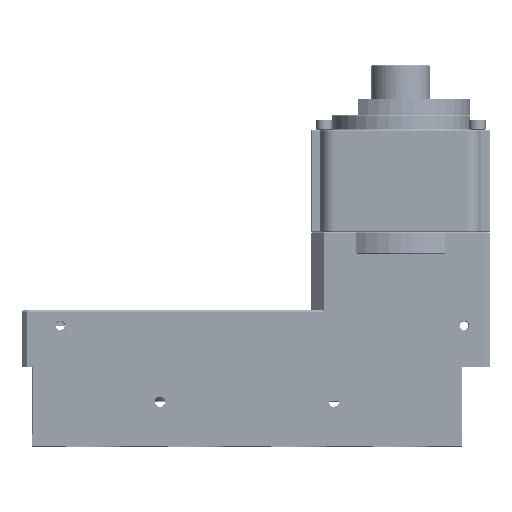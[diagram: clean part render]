
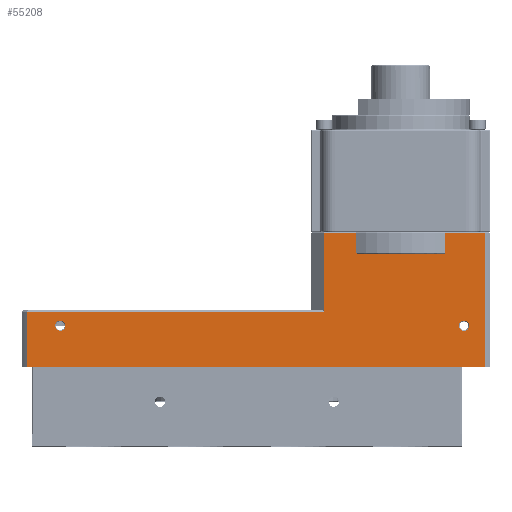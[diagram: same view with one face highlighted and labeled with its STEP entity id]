
A CAD part, top view. The second image highlights one B-rep face of the part: STEP entity #55208.
In plain terms, the highlighted planar face has unit normal (0, 0, 1).
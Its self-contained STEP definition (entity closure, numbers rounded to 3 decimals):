
#10678 = EDGE_LOOP ( 'NONE', ( #95734, #95729, #94895, #94901, #96027, #95332, #95572, #95432, #95699, #94697, #95570, #95328 ) ) ;
#35130 = EDGE_LOOP ( 'NONE', ( #94853, #94816 ) ) ;
#42909 = CARTESIAN_POINT ( 'NONE',  ( 255.283, 23.325, 11.51 ) ) ;
#45396 = DIRECTION ( 'NONE',  ( 0., 0., -1. ) ) ;
#45399 = DIRECTION ( 'NONE',  ( -1., 0., 0. ) ) ;
#45437 = PLANE ( 'NONE',  #165544 ) ;
#55208 = ADVANCED_FACE ( 'NONE', ( #164099, #164111, #164115 ), #45437, .F. ) ;
#55702 = B_SPLINE_CURVE_WITH_KNOTS ( 'NONE', 3,
 ( #152150, #152155, #152156, #152157 ),
 .UNSPECIFIED., .F., .F.,
 ( 4, 4 ),
 ( 0., 0.002 ),
 .UNSPECIFIED. ) ;
#55705 = B_SPLINE_CURVE_WITH_KNOTS ( 'NONE', 3,
 ( #152209, #152215, #152216, #152217 ),
 .UNSPECIFIED., .F., .F.,
 ( 4, 4 ),
 ( 0., 0.002 ),
 .UNSPECIFIED. ) ;
#60473 = CARTESIAN_POINT ( 'NONE',  ( 255.283, 83.075, 11.51 ) ) ;
#60999 = CARTESIAN_POINT ( 'NONE',  ( 255.283, -21.175, 11.51 ) ) ;
#61098 = CARTESIAN_POINT ( 'NONE',  ( 129.553, 83.075, 11.51 ) ) ;
#61161 = CARTESIAN_POINT ( 'NONE',  ( 129.553, 21.825, 11.51 ) ) ;
#61177 = CARTESIAN_POINT ( 'NONE',  ( 224.461, 67.575, 11.51 ) ) ;
#61347 = CARTESIAN_POINT ( 'NONE',  ( 235.258, 10.825, 11.51 ) ) ;
#61388 = CARTESIAN_POINT ( 'NONE',  ( -102.717, -21.175, 11.51 ) ) ;
#61414 = CARTESIAN_POINT ( 'NONE',  ( -102.717, 21.825, 11.51 ) ) ;
#61423 = CARTESIAN_POINT ( 'NONE',  ( 224.461, 83.075, 11.51 ) ) ;
#61432 = CARTESIAN_POINT ( 'NONE',  ( 154.645, 83.075, 11.51 ) ) ;
#61434 = CARTESIAN_POINT ( 'NONE',  ( 156.393, 66.575, 11.51 ) ) ;
#61616 = CARTESIAN_POINT ( 'NONE',  ( 154.645, 67.575, 11.51 ) ) ;
#61623 = CARTESIAN_POINT ( 'NONE',  ( -72.692, 10.825, 11.51 ) ) ;
#61698 = CARTESIAN_POINT ( 'NONE',  ( 222.712, 66.575, 11.51 ) ) ;
#61728 = CARTESIAN_POINT ( 'NONE',  ( -80.742, 10.825, 11.51 ) ) ;
#61938 = CARTESIAN_POINT ( 'NONE',  ( 243.308, 10.825, 11.51 ) ) ;
#63099 = EDGE_CURVE ( 'NONE', #106035, #104746, #146894, .T. ) ;
#63134 = EDGE_CURVE ( 'NONE', #104834, #103984, #147018, .T. ) ;
#63195 = EDGE_CURVE ( 'NONE', #104746, #106035, #147289, .T. ) ;
#63214 = EDGE_CURVE ( 'NONE', #103158, #103984, #147362, .T. ) ;
#63225 = EDGE_CURVE ( 'NONE', #104946, #105496, #147378, .T. ) ;
#63248 = EDGE_CURVE ( 'NONE', #103158, #104919, #147486, .T. ) ;
#63333 = EDGE_CURVE ( 'NONE', #104941, #104204, #147651, .T. ) ;
#63377 = EDGE_CURVE ( 'NONE', #105324, #104941, #147718, .T. ) ;
#63433 = EDGE_CURVE ( 'NONE', #104897, #104834, #147800, .T. ) ;
#63461 = EDGE_CURVE ( 'NONE', #104946, #105324, #55702, .T. ) ;
#63462 = EDGE_CURVE ( 'NONE', #104204, #104340, #147837, .T. ) ;
#63465 = EDGE_CURVE ( 'NONE', #105340, #105556, #147855, .T. ) ;
#63480 = EDGE_CURVE ( 'NONE', #104376, #105496, #55705, .T. ) ;
#63481 = EDGE_CURVE ( 'NONE', #104376, #104919, #147871, .T. ) ;
#63482 = EDGE_CURVE ( 'NONE', #104340, #104897, #147879, .T. ) ;
#94697 = ORIENTED_EDGE ( 'NONE', *, *, #63482, .T. ) ;
#94816 = ORIENTED_EDGE ( 'NONE', *, *, #120240, .F. ) ;
#94853 = ORIENTED_EDGE ( 'NONE', *, *, #63465, .F. ) ;
#94895 = ORIENTED_EDGE ( 'NONE', *, *, #63481, .F. ) ;
#94901 = ORIENTED_EDGE ( 'NONE', *, *, #63480, .T. ) ;
#95328 = ORIENTED_EDGE ( 'NONE', *, *, #63134, .T. ) ;
#95332 = ORIENTED_EDGE ( 'NONE', *, *, #63461, .T. ) ;
#95432 = ORIENTED_EDGE ( 'NONE', *, *, #63333, .T. ) ;
#95565 = ORIENTED_EDGE ( 'NONE', *, *, #63195, .F. ) ;
#95568 = ORIENTED_EDGE ( 'NONE', *, *, #63099, .F. ) ;
#95570 = ORIENTED_EDGE ( 'NONE', *, *, #63433, .T. ) ;
#95572 = ORIENTED_EDGE ( 'NONE', *, *, #63377, .T. ) ;
#95699 = ORIENTED_EDGE ( 'NONE', *, *, #63462, .T. ) ;
#95729 = ORIENTED_EDGE ( 'NONE', *, *, #63248, .T. ) ;
#95734 = ORIENTED_EDGE ( 'NONE', *, *, #63214, .F. ) ;
#96027 = ORIENTED_EDGE ( 'NONE', *, *, #63225, .F. ) ;
#100883 = AXIS2_PLACEMENT_3D ( 'NONE', #164241, #164261, #164263 ) ;
#103158 = VERTEX_POINT ( 'NONE', #60473 ) ;
#103984 = VERTEX_POINT ( 'NONE', #60999 ) ;
#104204 = VERTEX_POINT ( 'NONE', #61098 ) ;
#104340 = VERTEX_POINT ( 'NONE', #61161 ) ;
#104376 = VERTEX_POINT ( 'NONE', #61177 ) ;
#104746 = VERTEX_POINT ( 'NONE', #61347 ) ;
#104834 = VERTEX_POINT ( 'NONE', #61388 ) ;
#104897 = VERTEX_POINT ( 'NONE', #61414 ) ;
#104919 = VERTEX_POINT ( 'NONE', #61423 ) ;
#104941 = VERTEX_POINT ( 'NONE', #61432 ) ;
#104946 = VERTEX_POINT ( 'NONE', #61434 ) ;
#105324 = VERTEX_POINT ( 'NONE', #61616 ) ;
#105340 = VERTEX_POINT ( 'NONE', #61623 ) ;
#105496 = VERTEX_POINT ( 'NONE', #61698 ) ;
#105556 = VERTEX_POINT ( 'NONE', #61728 ) ;
#106035 = VERTEX_POINT ( 'NONE', #61938 ) ;
#110987 = AXIS2_PLACEMENT_3D ( 'NONE', #151278, #151282, #151283 ) ;
#111050 = AXIS2_PLACEMENT_3D ( 'NONE', #151499, #151500, #151501 ) ;
#111303 = AXIS2_PLACEMENT_3D ( 'NONE', #152168, #152171, #152173 ) ;
#118253 = EDGE_LOOP ( 'NONE', ( #95568, #95565 ) ) ;
#120240 = EDGE_CURVE ( 'NONE', #105556, #105340, #136415, .T. ) ;
#136415 = CIRCLE ( 'NONE', #100883, 4.025 ) ;
#146894 = CIRCLE ( 'NONE', #110987, 4.025 ) ;
#147018 = LINE ( 'NONE', #151344, #147031 ) ;
#147031 = VECTOR ( 'NONE', #151364, 1000. ) ;
#147289 = CIRCLE ( 'NONE', #111050, 4.025 ) ;
#147362 = LINE ( 'NONE', #151543, #147364 ) ;
#147364 = VECTOR ( 'NONE', #151544, 1000. ) ;
#147378 = LINE ( 'NONE', #151564, #147407 ) ;
#147407 = VECTOR ( 'NONE', #151570, 1000. ) ;
#147486 = LINE ( 'NONE', #151625, #147489 ) ;
#147489 = VECTOR ( 'NONE', #151626, 1000. ) ;
#147646 = VECTOR ( 'NONE', #151843, 1000. ) ;
#147651 = LINE ( 'NONE', #151838, #147646 ) ;
#147718 = LINE ( 'NONE', #151938, #147720 ) ;
#147720 = VECTOR ( 'NONE', #151946, 1000. ) ;
#147800 = LINE ( 'NONE', #152080, #147808 ) ;
#147808 = VECTOR ( 'NONE', #152081, 1000. ) ;
#147833 = VECTOR ( 'NONE', #152159, 1000. ) ;
#147837 = LINE ( 'NONE', #152158, #147833 ) ;
#147855 = CIRCLE ( 'NONE', #111303, 4.025 ) ;
#147871 = LINE ( 'NONE', #152218, #147876 ) ;
#147876 = VECTOR ( 'NONE', #152220, 1000. ) ;
#147879 = LINE ( 'NONE', #152221, #147880 ) ;
#147880 = VECTOR ( 'NONE', #152222, 1000. ) ;
#151278 = CARTESIAN_POINT ( 'NONE',  ( 239.283, 10.825, 11.51 ) ) ;
#151282 = DIRECTION ( 'NONE',  ( 0., 0., 1. ) ) ;
#151283 = DIRECTION ( 'NONE',  ( 1., 0., 0. ) ) ;
#151344 = CARTESIAN_POINT ( 'NONE',  ( 255.283, -21.175, 11.51 ) ) ;
#151364 = DIRECTION ( 'NONE',  ( 1., 0., 0. ) ) ;
#151499 = CARTESIAN_POINT ( 'NONE',  ( 239.283, 10.825, 11.51 ) ) ;
#151500 = DIRECTION ( 'NONE',  ( 0., 0., 1. ) ) ;
#151501 = DIRECTION ( 'NONE',  ( 1., 0., 0. ) ) ;
#151543 = CARTESIAN_POINT ( 'NONE',  ( 255.283, 23.325, 11.51 ) ) ;
#151544 = DIRECTION ( 'NONE',  ( 0., -1., 0. ) ) ;
#151564 = CARTESIAN_POINT ( 'NONE',  ( 56.704, 66.575, 11.51 ) ) ;
#151570 = DIRECTION ( 'NONE',  ( 1., 0., 0. ) ) ;
#151625 = CARTESIAN_POINT ( 'NONE',  ( 224.461, 83.075, 11.51 ) ) ;
#151626 = DIRECTION ( 'NONE',  ( -1., 0., 0. ) ) ;
#151838 = CARTESIAN_POINT ( 'NONE',  ( 129.553, 83.075, 11.51 ) ) ;
#151843 = DIRECTION ( 'NONE',  ( -1., 0., 0. ) ) ;
#151938 = CARTESIAN_POINT ( 'NONE',  ( 154.645, 66.575, 11.51 ) ) ;
#151946 = DIRECTION ( 'NONE',  ( 0., 1., 0. ) ) ;
#152080 = CARTESIAN_POINT ( 'NONE',  ( -102.717, 23.325, 11.51 ) ) ;
#152081 = DIRECTION ( 'NONE',  ( 0., -1., 0. ) ) ;
#152150 = CARTESIAN_POINT ( 'NONE',  ( 156.393, 66.575, 11.51 ) ) ;
#152155 = CARTESIAN_POINT ( 'NONE',  ( 155.808, 66.904, 11.51 ) ) ;
#152156 = CARTESIAN_POINT ( 'NONE',  ( 155.225, 67.237, 11.51 ) ) ;
#152157 = CARTESIAN_POINT ( 'NONE',  ( 154.645, 67.575, 11.51 ) ) ;
#152158 = CARTESIAN_POINT ( 'NONE',  ( 129.553, 23.325, 11.51 ) ) ;
#152159 = DIRECTION ( 'NONE',  ( 0., -1., 0. ) ) ;
#152168 = CARTESIAN_POINT ( 'NONE',  ( -76.717, 10.825, 11.51 ) ) ;
#152171 = DIRECTION ( 'NONE',  ( 0., 0., 1. ) ) ;
#152173 = DIRECTION ( 'NONE',  ( 1., 0., 0. ) ) ;
#152209 = CARTESIAN_POINT ( 'NONE',  ( 224.461, 67.575, 11.51 ) ) ;
#152215 = CARTESIAN_POINT ( 'NONE',  ( 223.88, 67.237, 11.51 ) ) ;
#152216 = CARTESIAN_POINT ( 'NONE',  ( 223.298, 66.904, 11.51 ) ) ;
#152217 = CARTESIAN_POINT ( 'NONE',  ( 222.712, 66.575, 11.51 ) ) ;
#152218 = CARTESIAN_POINT ( 'NONE',  ( 224.461, 66.575, 11.51 ) ) ;
#152220 = DIRECTION ( 'NONE',  ( 0., 1., 0. ) ) ;
#152221 = CARTESIAN_POINT ( 'NONE',  ( -102.717, 21.825, 11.51 ) ) ;
#152222 = DIRECTION ( 'NONE',  ( -1., 0., 0. ) ) ;
#164099 = FACE_BOUND ( 'NONE', #35130, .T. ) ;
#164111 = FACE_OUTER_BOUND ( 'NONE', #10678, .T. ) ;
#164115 = FACE_BOUND ( 'NONE', #118253, .T. ) ;
#164241 = CARTESIAN_POINT ( 'NONE',  ( -76.717, 10.825, 11.51 ) ) ;
#164261 = DIRECTION ( 'NONE',  ( 0., 0., 1. ) ) ;
#164263 = DIRECTION ( 'NONE',  ( 1., 0., 0. ) ) ;
#165544 = AXIS2_PLACEMENT_3D ( 'NONE', #42909, #45396, #45399 ) ;
